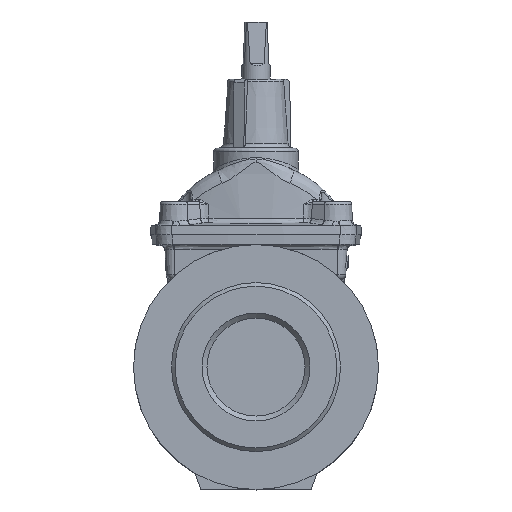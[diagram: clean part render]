
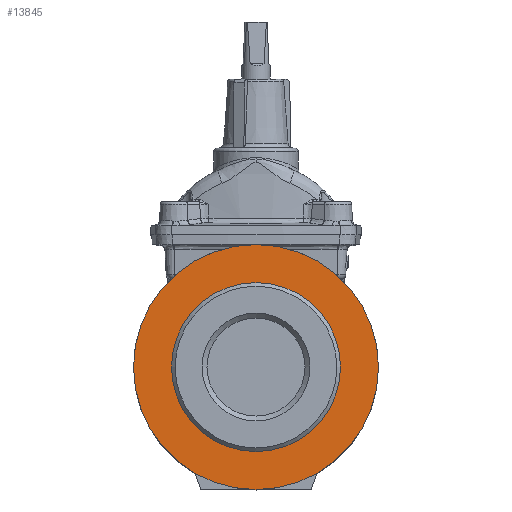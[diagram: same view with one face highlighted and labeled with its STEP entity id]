
A CAD part, top view. The second image highlights one B-rep face of the part: STEP entity #13845.
In plain terms, the highlighted planar face has unit normal (0, 0, 1).
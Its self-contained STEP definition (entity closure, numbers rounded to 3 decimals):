
#1054 = FACE_BOUND ( 'NONE', #29726, .T. ) ;
#1070 = FACE_OUTER_BOUND ( 'NONE', #26970, .T. ) ;
#3303 = PLANE ( 'NONE',  #8621 ) ;
#3347 = DIRECTION ( 'NONE',  ( 0., 0., 1. ) ) ;
#3532 = CARTESIAN_POINT ( 'NONE',  ( 0., 69., 98.5 ) ) ;
#3602 = DIRECTION ( 'NONE',  ( 0., -1., 0. ) ) ;
#4648 = CARTESIAN_POINT ( 'NONE',  ( 0., 0., 98.5 ) ) ;
#4802 = DIRECTION ( 'NONE',  ( 0., 0., 1. ) ) ;
#4870 = DIRECTION ( 'NONE',  ( 0., -1., 0. ) ) ;
#5347 = CARTESIAN_POINT ( 'NONE',  ( 0., 0., 98.5 ) ) ;
#5406 = DIRECTION ( 'NONE',  ( 0., 0., 1. ) ) ;
#5413 = DIRECTION ( 'NONE',  ( 0., -1., 0. ) ) ;
#7050 = AXIS2_PLACEMENT_3D ( 'NONE', #5347, #5406, #5413 ) ;
#7296 = EDGE_CURVE ( 'NONE', #24230, #24230, #11215, .T. ) ;
#7355 = EDGE_CURVE ( 'NONE', #24232, #24232, #11261, .T. ) ;
#7427 = AXIS2_PLACEMENT_3D ( 'NONE', #4648, #4802, #4870 ) ;
#8621 = AXIS2_PLACEMENT_3D ( 'NONE', #3532, #3347, #3602 ) ;
#11215 = CIRCLE ( 'NONE', #7050, 100. ) ;
#11261 = CIRCLE ( 'NONE', #7427, 69. ) ;
#13845 = ADVANCED_FACE ( 'NONE', ( #1070, #1054 ), #3303, .T. ) ;
#24057 = CARTESIAN_POINT ( 'NONE',  ( 0., -100., 98.5 ) ) ;
#24059 = CARTESIAN_POINT ( 'NONE',  ( 0., -69., 98.5 ) ) ;
#24230 = VERTEX_POINT ( 'NONE', #24057 ) ;
#24232 = VERTEX_POINT ( 'NONE', #24059 ) ;
#26970 = EDGE_LOOP ( 'NONE', ( #29031 ) ) ;
#28893 = ORIENTED_EDGE ( 'NONE', *, *, #7355, .F. ) ;
#29031 = ORIENTED_EDGE ( 'NONE', *, *, #7296, .T. ) ;
#29726 = EDGE_LOOP ( 'NONE', ( #28893 ) ) ;
